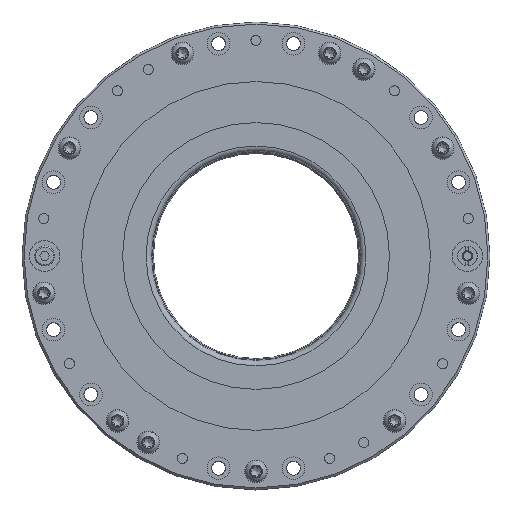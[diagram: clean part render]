
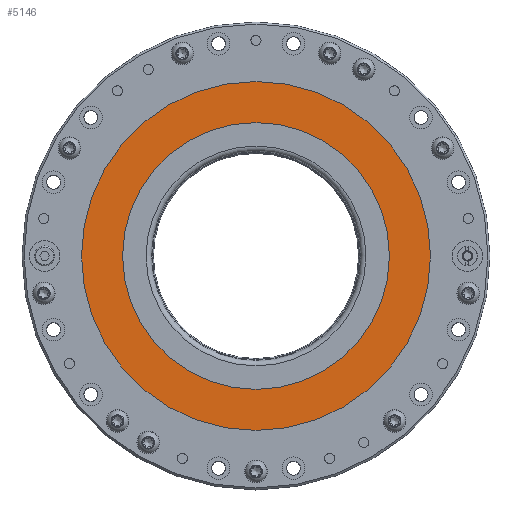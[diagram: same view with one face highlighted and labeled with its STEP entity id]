
A CAD part, top view. The second image highlights one B-rep face of the part: STEP entity #5146.
In plain terms, the highlighted planar face has unit normal (0, 0, 1) as drawn and (0, 0, -1) by its records, which use the part's own axes.
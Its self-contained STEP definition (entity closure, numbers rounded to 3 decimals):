
#346=PLANE('',#5581);
#536=CIRCLE('',#5582,65.);
#537=CIRCLE('',#5583,85.);
#1282=ORIENTED_EDGE('',*,*,#1863,.T.);
#1283=ORIENTED_EDGE('',*,*,#1864,.F.);
#1863=EDGE_CURVE('',#2235,#2235,#536,.T.);
#1864=EDGE_CURVE('',#2236,#2236,#537,.T.);
#2235=VERTEX_POINT('',#8505);
#2236=VERTEX_POINT('',#8507);
#2853=EDGE_LOOP('',(#1282));
#2854=EDGE_LOOP('',(#1283));
#3318=FACE_BOUND('',#2853,.T.);
#3319=FACE_BOUND('',#2854,.T.);
#5146=ADVANCED_FACE('',(#3318,#3319),#346,.F.);
#5581=AXIS2_PLACEMENT_3D('',#8503,#6477,#6478);
#5582=AXIS2_PLACEMENT_3D('',#8504,#6479,#6480);
#5583=AXIS2_PLACEMENT_3D('',#8506,#6481,#6482);
#6477=DIRECTION('',(0.,0.,1.));
#6478=DIRECTION('',(1.,0.,0.));
#6479=DIRECTION('',(0.,0.,1.));
#6480=DIRECTION('',(1.,0.,0.));
#6481=DIRECTION('',(0.,0.,1.));
#6482=DIRECTION('',(1.,0.,0.));
#8503=CARTESIAN_POINT('',(65.,0.,-7.75));
#8504=CARTESIAN_POINT('',(0.,0.,-7.75));
#8505=CARTESIAN_POINT('',(65.,0.,-7.75));
#8506=CARTESIAN_POINT('',(0.,0.,-7.75));
#8507=CARTESIAN_POINT('',(85.,0.,-7.75));
